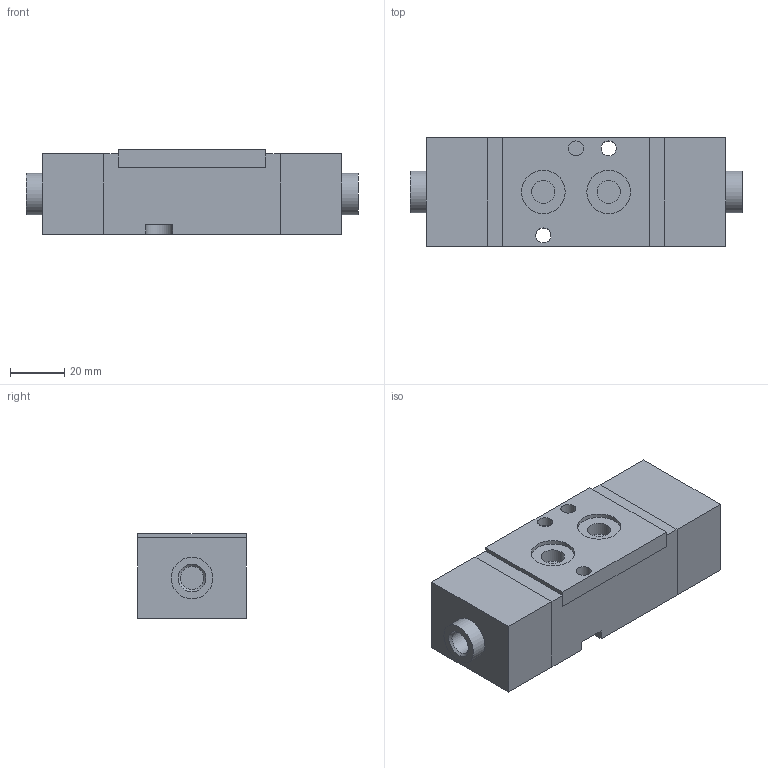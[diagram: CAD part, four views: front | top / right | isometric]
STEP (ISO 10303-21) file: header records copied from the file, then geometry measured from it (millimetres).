
FILE_DESCRIPTION((''),'2;1');
FILE_NAME('I:\Area Tecnica\Disegni\VARIE-3D\Componenti\T514\3D\T514520018.stp','2008-05-09T11:19:21',('foiengi1'),(''),'Autodesk Inventor 2008','Autodesk Inventor 2008','');
FILE_SCHEMA(('AUTOMOTIVE_DESIGN { 1 0 10303 214 1 1 1 1 }'));
Length unit declared in the file: millimetre
Products named in the file (1): T514520018
Bounding box: 122 x 40 x 31 mm (x, y, z)
Volume: 128310.6 mm3; surface area: 21232 mm2
Topology: 1 solids, 1 shells, 77 faces, 159 edges, 103 vertices
Faces by surface type: plane 36, bspline 32, cylinder 8, cone 1
Full cylindrical faces by diameter (mm): 5.5 x2, 8.566 x1, 15.31 x1, 16 x2
Entity records: 2218 total; most frequent: CARTESIAN_POINT 650, DIRECTION 274, ORIENTED_EDGE 270, EDGE_CURVE 135, EDGE_LOOP 124, VERTEX_POINT 103, AXIS2_PLACEMENT_3D 93, VECTOR 88
